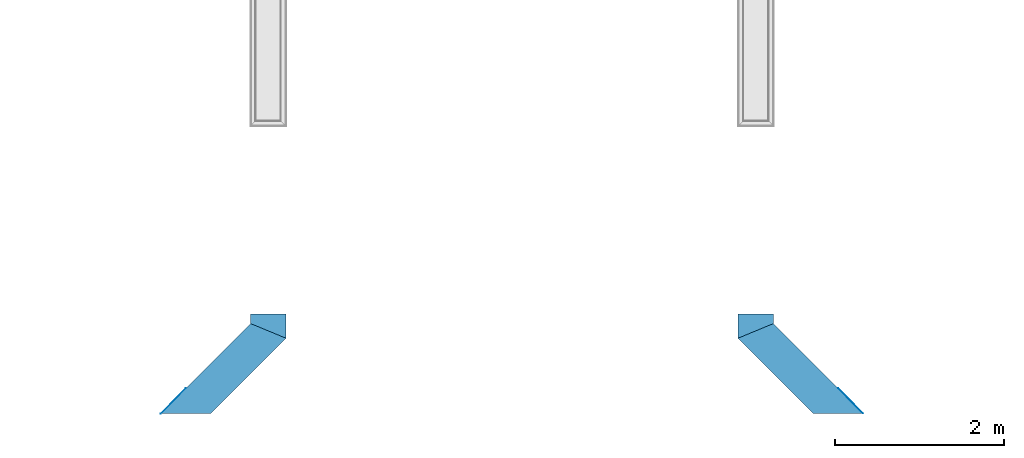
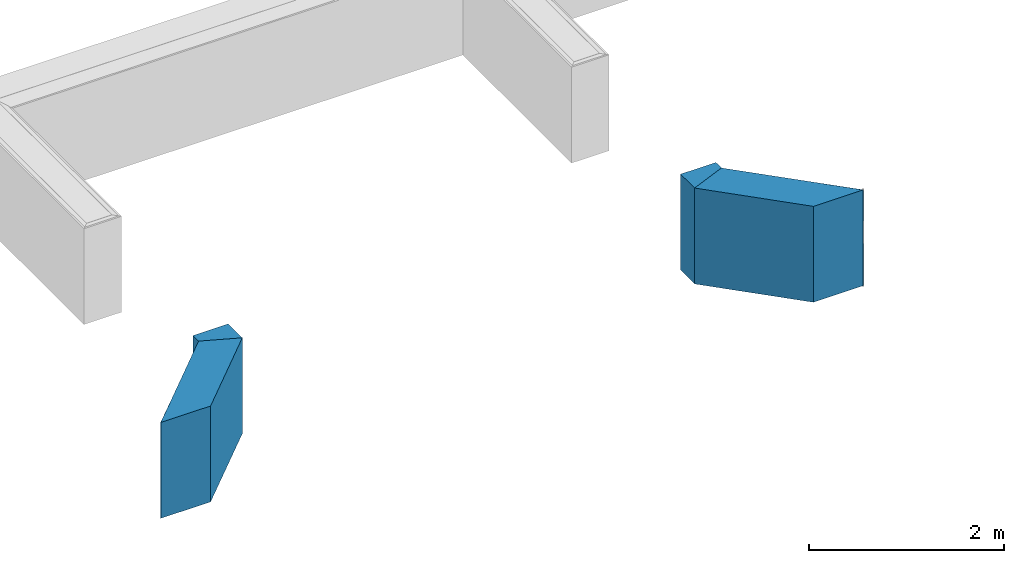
# One storey, part 9 of 16: 6 stairs.
"""IFC2X3 building model written with IfcOpenShell, lengths in millimetres."""

from ifc_helpers import new_model, entity, si_unit, converted_unit, derived_unit, money_unit, direction, frame, origin_with_axes, place, context, subcontext, project, spatial, polyline, outline, extrude, material, element, save


model = new_model("IFC2X3")

# Units and contexts
model_context = context("Model", 3, precision=0.01, world=origin_with_axes(), true_north=direction((0.0, 1.0)))
body_context = subcontext(model_context, "Body", "Model", "MODEL_VIEW")
ifc_project = project(units=[si_unit("LENGTHUNIT", "METRE", prefix="MILLI"), si_unit("AREAUNIT", "SQUARE_METRE"), si_unit("VOLUMEUNIT", "CUBIC_METRE"), converted_unit("PLANEANGLEUNIT", "DEGREE", entity("IfcPlaneAngleMeasure", 0.0174532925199), si_unit("PLANEANGLEUNIT", "RADIAN"), dimensions=[0, 0, 0, 0, 0, 0, 0]), si_unit("SOLIDANGLEUNIT", "STERADIAN"), money_unit("EUR"), converted_unit("TIMEUNIT", "Year", entity("IfcTimeMeasure", 31556926.0), si_unit("TIMEUNIT", "SECOND"), dimensions=[0, 0, 1, 0, 0, 0, 0]), si_unit("MASSUNIT", "GRAM", prefix="KILO"), si_unit("THERMODYNAMICTEMPERATUREUNIT", "DEGREE_CELSIUS"), si_unit("LUMINOUSINTENSITYUNIT", "LUMEN"), si_unit("ENERGYUNIT", "JOULE", prefix="MEGA"), derived_unit("THERMALCONDUCTANCEUNIT", [(si_unit("POWERUNIT", "WATT"), 1), (si_unit("LENGTHUNIT", "METRE"), -1), (si_unit("THERMODYNAMICTEMPERATUREUNIT", "KELVIN"), -1)]), derived_unit("SPECIFICHEATCAPACITYUNIT", [(si_unit("ENERGYUNIT", "JOULE"), 1), (si_unit("MASSUNIT", "GRAM", prefix="KILO"), -1), (si_unit("THERMODYNAMICTEMPERATUREUNIT", "KELVIN"), -1)]), derived_unit("MASSDENSITYUNIT", [(si_unit("MASSUNIT", "GRAM", prefix="KILO"), 1), (si_unit("VOLUMEUNIT", "CUBIC_METRE"), -1)])], contexts=[model_context])

# Site, building, storey
site_placement = place(None, origin_with_axes())
site = spatial("IfcSite", under=ifc_project, at=site_placement, Name="Paldiski mnt 245/1, Tallinn, Harjumaa", CompositionType="COMPLEX")
building_placement = place(site_placement, origin_with_axes())
building = spatial("IfcBuilding", under=site, at=building_placement, Name="RKAS Hoone üldnimetus (kasutust iseloomustav) -> IFC Project Manager -> SOLIBRI", CompositionType="ELEMENT")
storey_placement = place(building_placement, frame((0.0, 0.0, -1200.0), z_axis=(0.0, 0.0, 1.0), x_axis=(1.0, 0.0, 0.0)))
storey = spatial("IfcBuildingStorey", under=building, at=storey_placement, Name="Vundament", CompositionType="ELEMENT", Elevation=-1200.0)

# Stairs
ifc_material = material(Name="ET-02_Raudbetoon - Toode")
stair_1_placement = place(storey_placement, frame((-44131.0, -17800.7372299, 0.0), z_axis=(0.0, 0.0, 1.0), x_axis=(0.0, 1.0, 0.0)))
element("IfcStair", 1, at=stair_1_placement, inside=storey, material=ifc_material, Name="Trepp", ShapeType="NOTDEFINED", context=body_context, shape_type="SweptSolid", body=[
    extrude(outline(polyline([(0.0, 0.0), (286.827866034, 0.0), (286.827866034, 418.0), (172.824632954, 418.0), (0.0, 0.0)])), origin_with_axes(), (0.0, 0.0, 1.0), 1200.0),
])
stair_2_placement = place(storey_placement, frame((-37595.4223489, -18395.2548152, 0.0), z_axis=(0.0, 0.0, 1.0), x_axis=(0.708270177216, -0.705941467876, 0.0)))
element("IfcStair", 2, at=stair_2_placement, inside=storey, material=ifc_material, Name="Trepp", ShapeType="NOTDEFINED", context=body_context, shape_type="SweptSolid", body=[
    extrude(outline(polyline([(0.0, -1.0), (420.078818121, -1.0), (422.498664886, 0.0), (0.0, 0.0), (0.0, -1.0)])), origin_with_axes(), (0.0, 0.0, 1.0), 1200.0),
])
stair_3_placement = place(storey_placement, frame((-38778.7820404, -17800.7372299, 0.0), z_axis=(0.0, 0.0, 1.0), x_axis=(0.0, 1.0, 0.0)))
element("IfcStair", 3, at=stair_3_placement, inside=storey, material=ifc_material, Name="Trepp", ShapeType="NOTDEFINED", context=body_context, shape_type="SweptSolid", body=[
    extrude(outline(polyline([(172.824632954, -418.0), (286.827866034, -418.0), (286.827866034, 0.0), (0.0, 0.0), (172.824632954, -418.0)])), origin_with_axes(), (0.0, 0.0, 1.0), 1200.0),
])
stair_4_placement = place(storey_placement, frame((-37888.3117308, -18693.5141429, 0.0), z_axis=(0.0, 0.0, 1.0), x_axis=(-0.706191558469, 0.708020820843, 0.0)))
element("IfcStair", 4, at=stair_4_placement, inside=storey, material=ifc_material, Name="Trepp", ShapeType="NOTDEFINED", context=body_context, shape_type="SweptSolid", body=[
    extrude(outline(polyline([(-415.507655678, -418.0), (1088.12262552, -418.0), (1260.94725847, 0.0), (0.0, 0.0), (-415.507655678, -418.0)])), origin_with_axes(), (0.0, 0.0, 1.0), 1200.0),
])
stair_5_placement = place(storey_placement, frame((-45314.3596915, -18395.2548152, 0.0), z_axis=(0.0, 0.0, 1.0), x_axis=(-0.708270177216, -0.705941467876, 0.0)))
element("IfcStair", 5, at=stair_5_placement, inside=storey, material=ifc_material, Name="Trepp", ShapeType="NOTDEFINED", context=body_context, shape_type="SweptSolid", body=[
    extrude(outline(polyline([(0.0, 0.0), (422.498664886, 0.0), (420.078818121, 0.999999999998), (0.0, 1.0), (0.0, 0.0)])), origin_with_axes(), (0.0, 0.0, 1.0), 1200.0),
])
stair_6_placement = place(storey_placement, frame((-45021.4703096, -18693.5141429, 0.0), z_axis=(0.0, 0.0, 1.0), x_axis=(0.706191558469, 0.708020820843, 0.0)))
element("IfcStair", 6, at=stair_6_placement, inside=storey, material=ifc_material, Name="Trepp", ShapeType="NOTDEFINED", context=body_context, shape_type="SweptSolid", body=[
    extrude(outline(polyline([(0.0, 0.0), (1260.94725847, 0.0), (1088.12262552, 418.0), (-415.507655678, 418.0), (0.0, 0.0)])), origin_with_axes(), (0.0, 0.0, 1.0), 1200.0),
])

save(model, "model.ifc")
